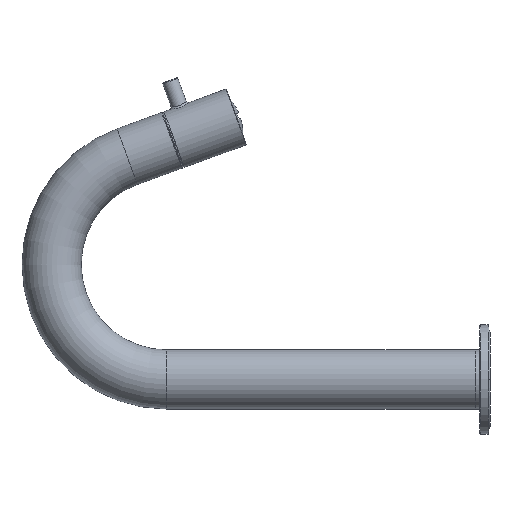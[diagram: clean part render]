
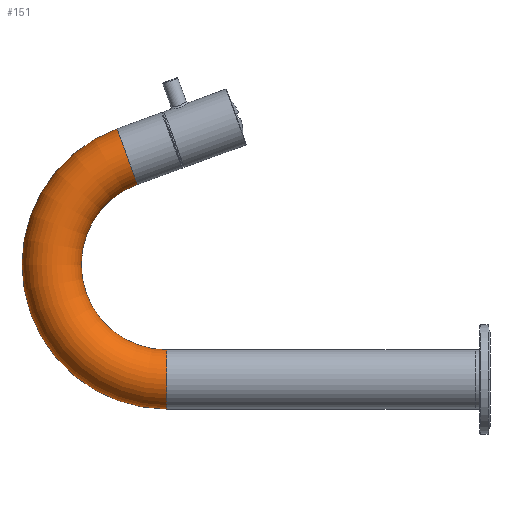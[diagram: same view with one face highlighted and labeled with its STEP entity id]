
A CAD part, left-side view. The second image highlights one B-rep face of the part: STEP entity #151.
In plain terms, the highlighted toroidal (fillet/blend) face has major radius 50.429 mm and minor radius 13 mm.
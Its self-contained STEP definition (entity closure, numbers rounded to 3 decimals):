
#19=CARTESIAN_POINT('',(0.,135.486,0.));
#20=DIRECTION('',(0.,1.,0.));
#21=DIRECTION('',(0.,0.,-1.));
#22=AXIS2_PLACEMENT_3D('',#19,#20,#21);
#24=CARTESIAN_POINT('',(0.,135.486,50.429));
#25=DIRECTION('',(1.,0.,0.));
#26=DIRECTION('',(0.,0.,-1.));
#27=AXIS2_PLACEMENT_3D('',#24,#25,#26);
#34=CARTESIAN_POINT('',(0.,135.486,50.429));
#35=DIRECTION('',(1.,0.,0.));
#36=DIRECTION('',(0.,0.,-1.));
#37=AXIS2_PLACEMENT_3D('',#34,#35,#36);
#78=CARTESIAN_POINT('',(0.,152.734,97.818));
#79=DIRECTION('',(0.,-0.94,0.342));
#80=DIRECTION('',(0.,0.342,0.94));
#81=AXIS2_PLACEMENT_3D('',#78,#79,#80);
#91=CARTESIAN_POINT('',(0.,135.486,13.));
#92=CARTESIAN_POINT('',(0.,135.486,-13.));
#93=VERTEX_POINT('',#91);
#94=VERTEX_POINT('',#92);
#95=CARTESIAN_POINT('',(0.,148.287,85.602));
#96=CARTESIAN_POINT('',(0.,157.18,110.034));
#97=VERTEX_POINT('',#95);
#98=VERTEX_POINT('',#96);
#137=CARTESIAN_POINT('',(0.,135.486,50.429));
#138=DIRECTION('',(1.,0.,0.));
#139=DIRECTION('',(0.,0.,1.));
#140=AXIS2_PLACEMENT_3D('',#137,#138,#139);
#141=TOROIDAL_SURFACE('',#140,50.429,13.);
#142=ORIENTED_EDGE('',*,*,#131,.F.);
#144=ORIENTED_EDGE('',*,*,#143,.T.);
#146=ORIENTED_EDGE('',*,*,#145,.T.);
#148=ORIENTED_EDGE('',*,*,#147,.F.);
#149=EDGE_LOOP('',(#142,#144,#146,#148));
#150=FACE_OUTER_BOUND('',#149,.F.);
#151=ADVANCED_FACE('',(#150),#141,.T.);
#23=CIRCLE('',#22,13.);
#28=CIRCLE('',#27,63.429);
#38=CIRCLE('',#37,37.429);
#82=CIRCLE('',#81,13.);
#131=EDGE_CURVE('',#94,#93,#23,.T.);
#143=EDGE_CURVE('',#94,#98,#28,.T.);
#145=EDGE_CURVE('',#98,#97,#82,.T.);
#147=EDGE_CURVE('',#93,#97,#38,.T.);
